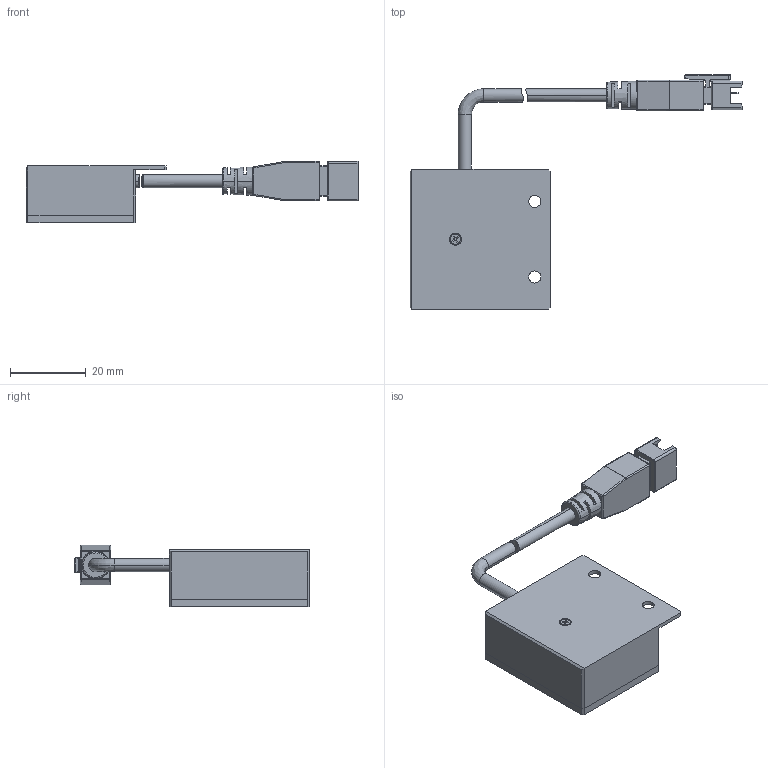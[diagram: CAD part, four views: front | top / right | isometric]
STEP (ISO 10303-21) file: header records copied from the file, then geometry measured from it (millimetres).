
FILE_DESCRIPTION (( 'STEP AP214' ), '1' );
FILE_NAME ('CST-HFS2727-蚾饜极.STEP', '2022-06-16T01:15:55', ( '' ), ( '' ), 'SwSTEP 2.0', 'SolidWorks 2018', '' );
FILE_SCHEMA (( 'AUTOMOTIVE_DESIGN' ));
Length unit declared in the file: millimetre
Products named in the file (2): CST-HFS2727-蚾饜极
Bounding box: 87.73 x 61.95 x 16.25 mm (x, y, z)
Surface area: 12252.1 mm2 (no closed solid volume)
Topology: 0 solids, 7 shells, 347 faces, 915 edges, 565 vertices
Faces by surface type: plane 172, cylinder 109, cone 32, bspline 28, torus 6
Entity records: 15052 total; most frequent: CARTESIAN_POINT 2749, DIRECTION 1739, ORIENTED_EDGE 1735, EDGE_CURVE 891, AXIS2_PLACEMENT_3D 591, VERTEX_POINT 565, VECTOR 557, LINE 557
